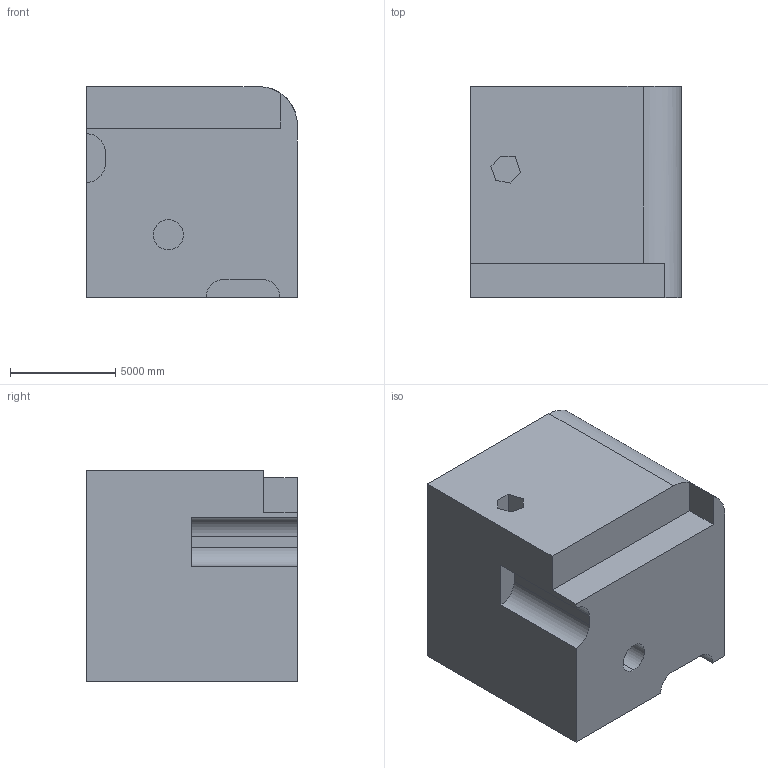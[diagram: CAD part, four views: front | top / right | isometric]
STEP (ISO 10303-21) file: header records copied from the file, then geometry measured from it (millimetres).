
FILE_DESCRIPTION (( 'STEP AP203' ), '1' );
FILE_NAME ('177.STEP', '2022-09-06T15:22:29', ( 'user' ), ( '' ), 'SwSTEP 2.0', 'SolidWorks 2021', '' );
FILE_SCHEMA (( 'CONFIG_CONTROL_DESIGN' ));
Length unit declared in the file: centimetre
Products named in the file (1): 177
Bounding box: 10000 x 10000 x 10000 mm (x, y, z)
Volume: 910443209829.8 mm3; surface area: 681367699.8 mm2
Topology: 1 solids, 1 shells, 39 faces, 105 edges, 70 vertices
Faces by surface type: plane 32, cylinder 7
Entity records: 1295 total; most frequent: CARTESIAN_POINT 230, ORIENTED_EDGE 210, DIRECTION 195, EDGE_CURVE 105, VECTOR 85, LINE 85, VERTEX_POINT 70, AXIS2_PLACEMENT_3D 55
